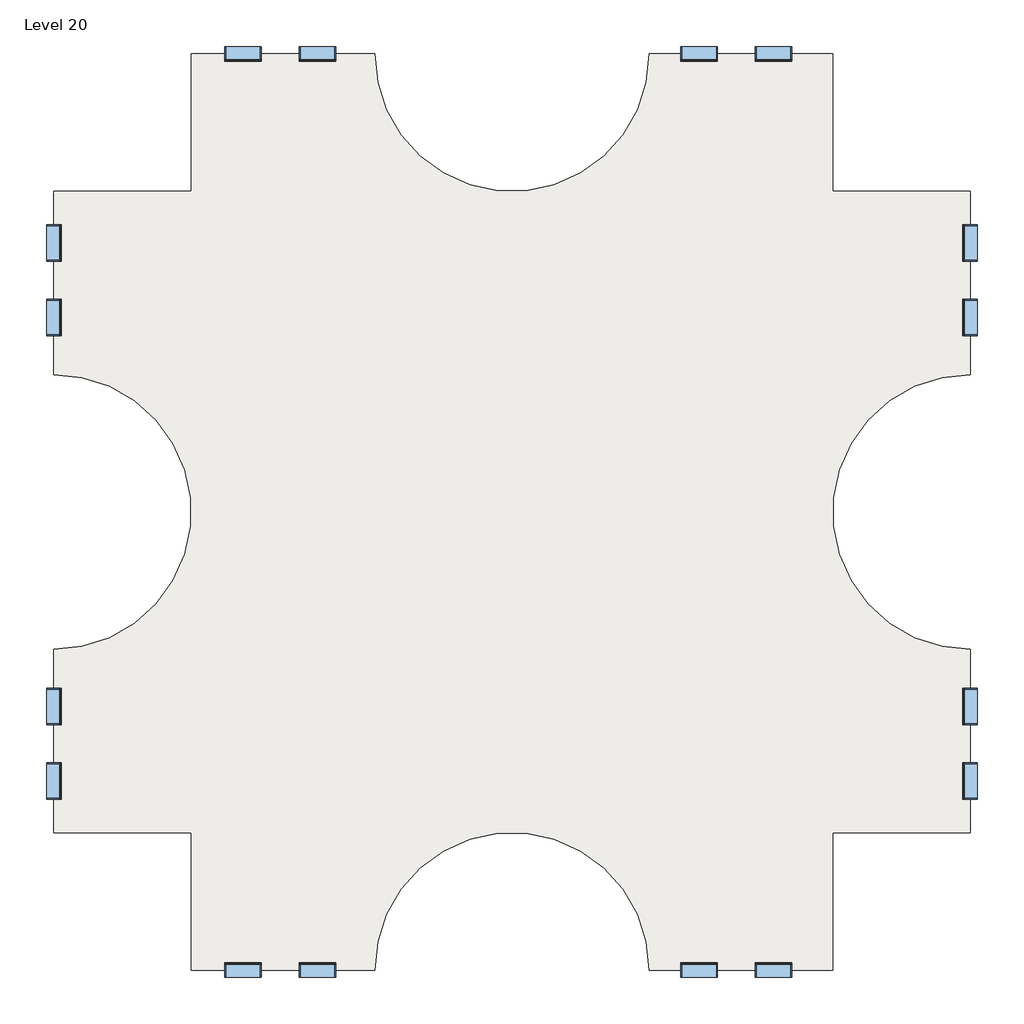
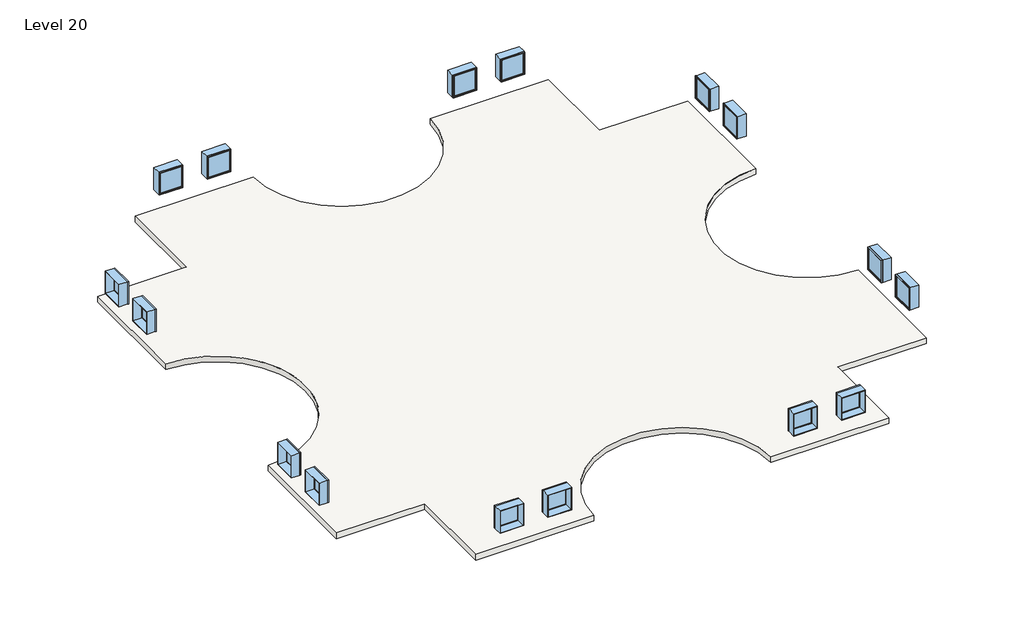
# One storey: 16 windows, 2 slabs.
"""IFC4 building model written with IfcOpenShell, lengths in millimetres."""

import ifcopenshell
import ifcopenshell.guid

model = None  # the IFC model being written
_history = None  # IfcOwnerHistory: only IFC2X3 demands one
_inside = {}  # id of a spatial element -> (the spatial element, [elements in it])
_under = {}  # id of a project, library or spatial element -> (it, [spatial elements below it])
_declared = {}  # id of a project -> (the project, [libraries it declares])
_typed = {}  # id of a type object -> (the type object, [elements of that type])
_made_of = {}  # id of a material, layer set ... -> (it, [elements and type objects made of it])


def new_model(schema):
    """Start an empty IFC model of exactly this schema.

    Asked for "IFC4X3", IfcOpenShell would pick the latest addendum, in which some entities
    have other attributes; the version numbers below select the first issue.
    IFC2X3 requires an IfcOwnerHistory on every rooted entity: one is made here for all.
    """
    global model, _history
    if schema == "IFC4X3":
        model = ifcopenshell.file(schema_version=(4, 3, 0, 0))
    else:
        model = ifcopenshell.file(schema=schema)
    _inside.clear()
    _under.clear()
    _declared.clear()
    _typed.clear()
    _made_of.clear()
    _history = None
    if model.schema == "IFC2X3":
        org = make("IfcOrganization", Name="unknown")
        user = make(
            "IfcPersonAndOrganization",
            ThePerson=make("IfcPerson", FamilyName="unknown"),
            TheOrganization=org,
        )
        app = make(
            "IfcApplication",
            ApplicationDeveloper=org,
            Version="unknown",
            ApplicationFullName="unknown",
            ApplicationIdentifier="unknown",
        )
        _history = make(
            "IfcOwnerHistory",
            OwningUser=user,
            OwningApplication=app,
            ChangeAction="ADDED",
            CreationDate=0,
        )
    return model


def make(cls, **values):
    """One entity of the class cls with the attributes given. An attribute that is None is left unset."""
    return model.create_entity(
        cls, **{name: value for name, value in values.items() if value is not None}
    )


def rooted(cls, **values):
    """An entity with a GlobalId (a new one), such as an element, a storey or a relation."""
    return make(cls, GlobalId=ifcopenshell.guid.new(), OwnerHistory=_history, **values)


def si_unit(unit_type, name, prefix=None):
    """IfcSIUnit, for example si_unit("LENGTHUNIT", "METRE", prefix="MILLI")."""
    return make("IfcSIUnit", UnitType=unit_type, Prefix=prefix, Name=name)


def assignment(units):
    """IfcUnitAssignment: the units of a project."""
    return None if units is None else make("IfcUnitAssignment", Units=units)


def point(xyz):
    """IfcCartesianPoint."""
    return None if xyz is None else make("IfcCartesianPoint", Coordinates=xyz)


def direction(xyz):
    """IfcDirection."""
    return None if xyz is None else make("IfcDirection", DirectionRatios=xyz)


def frame(location, z_axis=None, x_axis=None):
    """IfcAxis2Placement3D, a coordinate frame: its origin and axes. An axis left out is left unset."""
    return make(
        "IfcAxis2Placement3D",
        Location=point(location),
        Axis=direction(z_axis),
        RefDirection=direction(x_axis),
    )


def frame_2d(location, x_axis=None):
    """IfcAxis2Placement2D, a coordinate frame in the plane: its origin and x axis."""
    return make(
        "IfcAxis2Placement2D", Location=point(location), RefDirection=direction(x_axis)
    )


def origin():
    """The frame at (0, 0, 0) with its axes left unset."""
    return frame((0.0, 0.0, 0.0))


def place(relative_to, where):
    """IfcLocalPlacement: puts the frame where relative to a parent placement (None: the world)."""
    return make(
        "IfcLocalPlacement", PlacementRelTo=relative_to, RelativePlacement=where
    )


def context(
    kind, dimensions, precision=None, world=None, true_north=None, identifier=None
):
    """IfcGeometricRepresentationContext, for example the 3D "Model" context."""
    return make(
        "IfcGeometricRepresentationContext",
        ContextIdentifier=identifier,
        ContextType=kind,
        CoordinateSpaceDimension=dimensions,
        Precision=precision,
        WorldCoordinateSystem=world,
        TrueNorth=true_north,
    )


def project(units=None, contexts=None):
    """IfcProject with its units and contexts."""
    return rooted(
        "IfcProject",
        Name="project",
        RepresentationContexts=contexts,
        UnitsInContext=assignment(units),
    )


def spatial(cls, under=None, at=None, **own):
    """A site, building, storey or space (cls), placed at a placement, below another one or the project."""
    s = rooted(cls, ObjectPlacement=at, **own)
    if under is not None:
        _under.setdefault(under.id(), (under, []))[1].append(s)
    return s


def polyline(points):
    """IfcPolyline through the points."""
    return make("IfcPolyline", Points=[point(p) for p in points])


def circle_curve(where, radius):
    """IfcCircle in the frame where."""
    return make("IfcCircle", Position=where, Radius=radius)


def trimmed(basis, trim1, trim2, sense, master):
    """IfcTrimmedCurve: the piece of a basis curve between two trims."""
    return make(
        "IfcTrimmedCurve",
        BasisCurve=basis,
        Trim1=trim1,
        Trim2=trim2,
        SenseAgreement=sense,
        MasterRepresentation=master,
    )


def segment(curve, same_sense, transition):
    """IfcCompositeCurveSegment."""
    return make(
        "IfcCompositeCurveSegment",
        Transition=transition,
        SameSense=same_sense,
        ParentCurve=curve,
    )


def composite_curve(segments, self_intersect=None):
    """IfcCompositeCurve: segments joined end to end."""
    return make("IfcCompositeCurve", Segments=segments, SelfIntersect=self_intersect)


def outline(outer, holes=None, kind="AREA"):
    """IfcArbitraryClosedProfileDef: a profile drawn as a closed curve; with holes, ...WithVoids."""
    if holes is None:
        return make("IfcArbitraryClosedProfileDef", ProfileType=kind, OuterCurve=outer)
    return make(
        "IfcArbitraryProfileDefWithVoids",
        ProfileType=kind,
        OuterCurve=outer,
        InnerCurves=holes,
    )


def extrude(swept, where, along, depth):
    """IfcExtrudedAreaSolid: the profile swept, set in the frame where, extruded along a direction by depth."""
    return make(
        "IfcExtrudedAreaSolid",
        SweptArea=swept,
        Position=where,
        ExtrudedDirection=direction(along),
        Depth=depth,
    )


def shape(context_of_items, identifier, shape_type, items):
    """IfcShapeRepresentation: the items that make up one representation, for example the "Body"."""
    return make(
        "IfcShapeRepresentation",
        ContextOfItems=context_of_items,
        RepresentationIdentifier=identifier,
        RepresentationType=shape_type,
        Items=items,
    )


def source(mapping_origin, context_of_items, identifier, shape_type, items):
    """IfcRepresentationMap: a shape defined once, which mapped items show again and again."""
    return make(
        "IfcRepresentationMap",
        MappingOrigin=mapping_origin,
        MappedRepresentation=shape(context_of_items, identifier, shape_type, items),
    )


def transform(
    local_origin,
    x_axis=None,
    y_axis=None,
    z_axis=None,
    scale=None,
    scale2=None,
    scale3=None,
    uniform=True,
):
    """IfcCartesianTransformationOperator3D, or its non-uniform kind. x_axis, y_axis, z_axis: its Axis1, 2, 3."""
    if uniform:
        return make(
            "IfcCartesianTransformationOperator3D",
            Axis1=direction(x_axis),
            Axis2=direction(y_axis),
            LocalOrigin=point(local_origin),
            Scale=scale,
            Axis3=direction(z_axis),
        )
    return make(
        "IfcCartesianTransformationOperator3DnonUniform",
        Axis1=direction(x_axis),
        Axis2=direction(y_axis),
        LocalOrigin=point(local_origin),
        Scale=scale,
        Axis3=direction(z_axis),
        Scale2=scale2,
        Scale3=scale3,
    )


def mapped(mapping_source, mapping_target):
    """IfcMappedItem: shows the shape of a source again, moved by a transform."""
    return make(
        "IfcMappedItem", MappingSource=mapping_source, MappingTarget=mapping_target
    )


def made_of(thing, what):
    """Note that an element or type object is made of a material, layer set ...; save() writes the relation."""
    if what is not None:
        _made_of.setdefault(what.id(), (what, []))[1].append(thing)
    return thing


def element(
    cls,
    number,
    at=None,
    inside=None,
    cuts=None,
    type_object=None,
    material=None,
    context=None,
    identifier="Body",
    shape_type=None,
    held_by="IfcProductDefinitionShape",
    body=None,
    shapes=None,
    **own,
):
    """One element of the class cls, such as IfcWall. Its Tag is "e" and its number.

    at: its placement. inside: the storey or other place that contains it. cuts: it is an
    opening in that element (IfcRelVoidsElement). A single representation is given by context,
    identifier, shape_type and body (its items); several are given by shapes. held_by: the class
    of the entity that holds the representations. save() writes the other relations.
    """
    e = rooted(cls, Tag="e%d" % number, ObjectPlacement=at, **own)
    if body is not None:
        shapes = [shape(context, identifier, shape_type, body)]
    if shapes is not None:
        e.Representation = make(held_by, Representations=shapes)
    if inside is not None:
        _inside.setdefault(inside.id(), (inside, []))[1].append(e)
    if cuts is not None:
        rooted(
            "IfcRelVoidsElement", RelatingBuildingElement=cuts, RelatedOpeningElement=e
        )
    if type_object is not None:
        _typed.setdefault(type_object.id(), (type_object, []))[1].append(e)
    return made_of(e, material)


def aggregate(whole, parts):
    """IfcRelAggregates: a whole, such as a stair, and the parts it consists of."""
    return rooted("IfcRelAggregates", RelatingObject=whole, RelatedObjects=parts)


def save(model, path):
    """Write the relations noted so far, then the file.

    IfcRelAggregates (storeys below a building ...), IfcRelContainedInSpatialStructure (elements
    in a storey), IfcRelDefinesByType, IfcRelAssociatesMaterial and IfcRelDeclares: one each for
    every whole, place, type object, material and project.
    """
    for whole, parts in _under.values():
        aggregate(whole, parts)
    for where, things in _inside.values():
        rooted(
            "IfcRelContainedInSpatialStructure",
            RelatedElements=things,
            RelatingStructure=where,
        )
    for kind, things in _typed.values():
        rooted("IfcRelDefinesByType", RelatedObjects=things, RelatingType=kind)
    for what, things in _made_of.values():
        rooted("IfcRelAssociatesMaterial", RelatedObjects=things, RelatingMaterial=what)
    for by, libraries in _declared.values():
        rooted("IfcRelDeclares", RelatingContext=by, RelatedDefinitions=libraries)
    model.write(path)


def window_d0035ecf(model_context):
    return source(origin(), model_context, "Body", "SweptSolid", [
        extrude(outline(polyline([(508.0, 200.025), (-584.2, 200.025), (-584.2, 212.725), (508.0, 212.725), (508.0, 200.025)])), frame((0.0, 0.0, 977.9), z_axis=(0.0, 0.0, 1.0), x_axis=(1.0, 0.0, 0.0)), (0.0, 0.0, 1.0), 1092.2),
        extrude(outline(polyline([(2114.55, -628.65), (933.45, -628.65), (933.45, 552.45), (2114.55, 552.45), (2114.55, -628.65)]), holes=[polyline([(2070.1, -584.2), (2070.1, 508.0), (977.9, 508.0), (977.9, -584.2), (2070.1, -584.2)])]), frame((0.0, 184.15, 0.0), z_axis=(0.0, 1.0, 0.0), x_axis=(0.0, 0.0, 1.0)), (0.0, 0.0, 1.0), 44.45),
        extrude(outline(polyline([(2133.6, -647.7), (914.4, -647.7), (914.4, 571.5), (2133.6, 571.5), (2133.6, -647.7)]), holes=[polyline([(2101.85, -615.95), (2101.85, 539.75), (946.15, 539.75), (946.15, -615.95), (2101.85, -615.95)])]), frame((0.0, -247.65, 0.0), z_axis=(0.0, 1.0, 0.0), x_axis=(0.0, 0.0, 1.0)), (0.0, 0.0, 1.0), 431.8),
        extrude(outline(polyline([(2133.6, 571.5), (2133.6, -647.7), (914.4, -647.7), (914.4, 571.5), (2133.6, 571.5)]), holes=[polyline([(2114.55, 552.45), (933.45, 552.45), (933.45, -628.65), (2114.55, -628.65), (2114.55, 552.45)])]), frame((0.0, 184.15, 0.0), z_axis=(0.0, 1.0, 0.0), x_axis=(0.0, 0.0, 1.0)), (0.0, 0.0, 1.0), 63.5),
    ])


def window_d434eb62(model_context):
    return source(origin(), model_context, "Body", "SweptSolid", [
        extrude(outline(polyline([(508.0, -200.025), (508.0, -212.725), (-584.2, -212.725), (-584.2, -200.025), (508.0, -200.025)])), frame((0.0, 0.0, 977.9), z_axis=(0.0, 0.0, 1.0), x_axis=(1.0, 0.0, 0.0)), (0.0, 0.0, 1.0), 1092.2),
        extrude(outline(polyline([(2114.55, -628.65), (933.45, -628.65), (933.45, 552.45), (2114.55, 552.45), (2114.55, -628.65)]), holes=[polyline([(2070.1, -584.2), (2070.1, 508.0), (977.9, 508.0), (977.9, -584.2), (2070.1, -584.2)])]), frame((0.0, -228.6, 0.0), z_axis=(0.0, 1.0, 0.0), x_axis=(0.0, 0.0, 1.0)), (0.0, 0.0, 1.0), 44.45),
        extrude(outline(polyline([(2133.6, -647.7), (914.4, -647.7), (914.4, 571.5), (2133.6, 571.5), (2133.6, -647.7)]), holes=[polyline([(2101.85, -615.95), (2101.85, 539.75), (946.15, 539.75), (946.15, -615.95), (2101.85, -615.95)])]), frame((0.0, -184.15, 0.0), z_axis=(0.0, 1.0, 0.0), x_axis=(0.0, 0.0, 1.0)), (0.0, 0.0, 1.0), 431.8),
        extrude(outline(polyline([(2133.6, 571.5), (2133.6, -647.7), (914.4, -647.7), (914.4, 571.5), (2133.6, 571.5)]), holes=[polyline([(2114.55, 552.45), (933.45, 552.45), (933.45, -628.65), (2114.55, -628.65), (2114.55, 552.45)])]), frame((0.0, -247.65, 0.0), z_axis=(0.0, 1.0, 0.0), x_axis=(0.0, 0.0, 1.0)), (0.0, 0.0, 1.0), 63.5),
    ])


model = new_model("IFC4")

# Units and contexts
model_context = context("Model", 3, world=origin())
ifc_project = project(units=[si_unit("LENGTHUNIT", "METRE", prefix="MILLI")], contexts=[model_context])

# Site, building, storey
site = spatial("IfcSite", under=ifc_project)
building = spatial("IfcBuilding", under=site)
storey = spatial("IfcBuildingStorey", under=building, Name="Level 20", Elevation=57912.0)

# Slabs
placement = place(None, origin())
element("IfcSlab", 1, ObjectType="Generic - 12\"", at=placement, inside=storey, context=model_context, shape_type="SweptSolid", body=[
    extrude(outline(composite_curve([segment(polyline([(-7150.3629456, 4479.6634547), (-7150.3629456, 9051.6634547), (-1054.3629456, 9051.6634547)]), True, "CONTINUOUS"), segment(trimmed(circle_curve(frame_2d((3517.6370544, 9051.6634547)), 4572.0), [point((-1054.3629456, 9051.6634547))], [point((8089.6370544, 9051.6634547))], True, "CARTESIAN"), True, "CONTINUOUS"), segment(polyline([(8089.6370544, 9051.6634547), (14185.6370544, 9051.6634547), (14185.6370544, 4479.6634547), (18757.6370544, 4479.6634547), (18757.6370544, -1616.3365453)]), True, "CONTINUOUS"), segment(trimmed(circle_curve(frame_2d((18757.6370544, -6188.3365453)), 4572.0), [point((18757.6370544, -1616.3365453))], [point((18757.6370544, -10760.3365453))], True, "CARTESIAN"), True, "CONTINUOUS"), segment(polyline([(18757.6370544, -10760.3365453), (18757.6370544, -16856.3365453), (14185.6370544, -16856.3365453), (14185.6370544, -21428.3365453), (8089.6370544, -21428.3365453)]), True, "CONTINUOUS"), segment(trimmed(circle_curve(frame_2d((3517.6370544, -21428.3365453)), 4572.0), [point((8089.6370544, -21428.3365453))], [point((-1054.3629456, -21428.3365453))], True, "CARTESIAN"), True, "CONTINUOUS"), segment(polyline([(-1054.3629456, -21428.3365453), (-7150.3629456, -21428.3365453), (-7150.3629456, -16856.3365453), (-11722.3629456, -16856.3365453), (-11722.3629456, -10760.3365453)]), True, "CONTINUOUS"), segment(trimmed(circle_curve(frame_2d((-11722.3629456, -6188.3365453)), 4572.0), [point((-11722.3629456, -10760.3365453))], [point((-11722.3629456, -1616.3365453))], True, "CARTESIAN"), True, "CONTINUOUS"), segment(polyline([(-11722.3629456, -1616.3365453), (-11722.3629456, 4479.6634547), (-7150.3629456, 4479.6634547)]), True, "CONTINUOUS")], self_intersect=False)), frame((0.0, 0.0, 57607.2), z_axis=(0.0, 0.0, 1.0), x_axis=(1.0, 0.0, 0.0)), (0.0, 0.0, 1.0), 304.8),
])
element("IfcSlab", 2, ObjectType="Generic - 12\"", at=placement, inside=storey, context=model_context, shape_type="SweptSolid", body=[
    extrude(outline(composite_curve([segment(polyline([(-7150.3629456, 4479.6634547), (-7150.3629456, 9051.6634547), (-1054.3629456, 9051.6634547)]), True, "CONTINUOUS"), segment(trimmed(circle_curve(frame_2d((3517.6370544, 9051.6634547)), 4572.0), [point((-1054.3629456, 9051.6634547))], [point((8089.6370544, 9051.6634547))], True, "CARTESIAN"), True, "CONTINUOUS"), segment(polyline([(8089.6370544, 9051.6634547), (14185.6370544, 9051.6634547), (14185.6370544, 4479.6634547), (18757.6370544, 4479.6634547), (18757.6370544, -1616.3365453)]), True, "CONTINUOUS"), segment(trimmed(circle_curve(frame_2d((18757.6370544, -6188.3365453)), 4572.0), [point((18757.6370544, -1616.3365453))], [point((18757.6370544, -10760.3365453))], True, "CARTESIAN"), True, "CONTINUOUS"), segment(polyline([(18757.6370544, -10760.3365453), (18757.6370544, -16856.3365453), (14185.6370544, -16856.3365453), (14185.6370544, -21428.3365453), (8089.6370544, -21428.3365453)]), True, "CONTINUOUS"), segment(trimmed(circle_curve(frame_2d((3517.6370544, -21428.3365453)), 4572.0), [point((8089.6370544, -21428.3365453))], [point((-1054.3629456, -21428.3365453))], True, "CARTESIAN"), True, "CONTINUOUS"), segment(polyline([(-1054.3629456, -21428.3365453), (-7150.3629456, -21428.3365453), (-7150.3629456, -16856.3365453), (-11722.3629456, -16856.3365453), (-11722.3629456, -10760.3365453)]), True, "CONTINUOUS"), segment(trimmed(circle_curve(frame_2d((-11722.3629456, -6188.3365453)), 4572.0), [point((-11722.3629456, -10760.3365453))], [point((-11722.3629456, -1616.3365453))], True, "CARTESIAN"), True, "CONTINUOUS"), segment(polyline([(-11722.3629456, -1616.3365453), (-11722.3629456, 4479.6634547), (-7150.3629456, 4479.6634547)]), True, "CONTINUOUS")], self_intersect=False)), frame((0.0, 0.0, 57607.2), z_axis=(0.0, 0.0, 1.0), x_axis=(1.0, 0.0, 0.0)), (0.0, 0.0, 1.0), 304.8),
])

# Windows
window_shape = window_d0035ecf(model_context)
element("IfcWindow", 3, ObjectType="Fixed : 48\" x 48\"", at=placement, inside=storey, context=model_context, shape_type="MappedRepresentation", body=[
    mapped(window_shape, transform((-11719.1879456, 247.3884547, 57912.0), x_axis=(0.0, -1.0, 0.0), y_axis=(1.0, 0.0, 0.0), z_axis=(0.0, 0.0, 1.0))),
])
element("IfcWindow", 4, ObjectType="Fixed : 48\" x 48\"", at=placement, inside=storey, context=model_context, shape_type="MappedRepresentation", body=[
    mapped(window_shape, transform((-5469.1993281, 9048.4884547, 57912.0), x_axis=(-1.0, 0.0, 0.0), y_axis=(0.0, -1.0, 0.0), z_axis=(0.0, 0.0, 1.0))),
])
element("IfcWindow", 5, ObjectType="Fixed : 48\" x 48\"", at=placement, inside=storey, context=model_context, shape_type="MappedRepresentation", body=[
    mapped(window_shape, transform((-11719.1879456, -15175.1729277, 57912.0), x_axis=(0.0, -1.0, 0.0), y_axis=(1.0, 0.0, 0.0), z_axis=(0.0, 0.0, 1.0))),
])
element("IfcWindow", 6, ObjectType="Fixed : 48\" x 48\"", at=placement, inside=storey, context=model_context, shape_type="MappedRepresentation", body=[
    mapped(window_shape, transform((-2918.0879456, -21425.1615453, 57912.0), x_axis=(1.0, 0.0, 0.0), y_axis=(0.0, 1.0, 0.0), z_axis=(0.0, 0.0, 1.0))),
])
element("IfcWindow", 7, ObjectType="Fixed : 48\" x 48\"", at=placement, inside=storey, context=model_context, shape_type="MappedRepresentation", body=[
    mapped(window_shape, transform((18754.4620544, 2798.4998372, 57912.0), x_axis=(0.0, 1.0, 0.0), y_axis=(-1.0, 0.0, 0.0), z_axis=(0.0, 0.0, 1.0))),
])
element("IfcWindow", 8, ObjectType="Fixed : 48\" x 48\"", at=placement, inside=storey, context=model_context, shape_type="MappedRepresentation", body=[
    mapped(window_shape, transform((9705.7120544, 9048.4884547, 57912.0), x_axis=(-1.0, 0.0, 0.0), y_axis=(0.0, -1.0, 0.0), z_axis=(0.0, 0.0, 1.0))),
])
element("IfcWindow", 9, ObjectType="Fixed : 48\" x 48\"", at=placement, inside=storey, context=model_context, shape_type="MappedRepresentation", body=[
    mapped(window_shape, transform((18754.4620544, -12624.0615453, 57912.0), x_axis=(0.0, 1.0, 0.0), y_axis=(-1.0, 0.0, 0.0), z_axis=(0.0, 0.0, 1.0))),
])
element("IfcWindow", 10, ObjectType="Fixed : 48\" x 48\"", at=placement, inside=storey, context=model_context, shape_type="MappedRepresentation", body=[
    mapped(window_shape, transform((12256.8234368, -21425.1615453, 57912.0), x_axis=(1.0, 0.0, 0.0), y_axis=(0.0, 1.0, 0.0), z_axis=(0.0, 0.0, 1.0))),
])
window_2_shape = window_d434eb62(model_context)
element("IfcWindow", 11, ObjectType="Fixed : 48\" x 48\"", at=placement, inside=storey, context=model_context, shape_type="MappedRepresentation", body=[
    mapped(window_2_shape, transform((-11719.1879456, 2798.4998372, 57912.0), x_axis=(0.0, 1.0, 0.0), y_axis=(-1.0, 0.0, 0.0), z_axis=(0.0, 0.0, 1.0))),
])
element("IfcWindow", 12, ObjectType="Fixed : 48\" x 48\"", at=placement, inside=storey, context=model_context, shape_type="MappedRepresentation", body=[
    mapped(window_2_shape, transform((-2918.0879456, 9048.4884547, 57912.0), x_axis=(1.0, 0.0, 0.0), y_axis=(0.0, 1.0, 0.0), z_axis=(0.0, 0.0, 1.0))),
])
element("IfcWindow", 13, ObjectType="Fixed : 48\" x 48\"", at=placement, inside=storey, context=model_context, shape_type="MappedRepresentation", body=[
    mapped(window_2_shape, transform((-11719.1879456, -12624.0615453, 57912.0), x_axis=(0.0, 1.0, 0.0), y_axis=(-1.0, 0.0, 0.0), z_axis=(0.0, 0.0, 1.0))),
])
element("IfcWindow", 14, ObjectType="Fixed : 48\" x 48\"", at=placement, inside=storey, context=model_context, shape_type="MappedRepresentation", body=[
    mapped(window_2_shape, transform((-5469.1993281, -21425.1615453, 57912.0), x_axis=(-1.0, 0.0, 0.0), y_axis=(0.0, -1.0, 0.0), z_axis=(0.0, 0.0, 1.0))),
])
element("IfcWindow", 15, ObjectType="Fixed : 48\" x 48\"", at=placement, inside=storey, context=model_context, shape_type="MappedRepresentation", body=[
    mapped(window_2_shape, transform((18754.4620544, 247.3884547, 57912.0), x_axis=(0.0, -1.0, 0.0), y_axis=(1.0, 0.0, 0.0), z_axis=(0.0, 0.0, 1.0))),
])
element("IfcWindow", 16, ObjectType="Fixed : 48\" x 48\"", at=placement, inside=storey, context=model_context, shape_type="MappedRepresentation", body=[
    mapped(window_2_shape, transform((12256.8234368, 9048.4884547, 57912.0), x_axis=(1.0, 0.0, 0.0), y_axis=(0.0, 1.0, 0.0), z_axis=(0.0, 0.0, 1.0))),
])
element("IfcWindow", 17, ObjectType="Fixed : 48\" x 48\"", at=placement, inside=storey, context=model_context, shape_type="MappedRepresentation", body=[
    mapped(window_2_shape, transform((18754.4620544, -15175.1729277, 57912.0), x_axis=(0.0, -1.0, 0.0), y_axis=(1.0, 0.0, 0.0), z_axis=(0.0, 0.0, 1.0))),
])
element("IfcWindow", 18, ObjectType="Fixed : 48\" x 48\"", at=placement, inside=storey, context=model_context, shape_type="MappedRepresentation", body=[
    mapped(window_2_shape, transform((9705.7120544, -21425.1615453, 57912.0), x_axis=(-1.0, 0.0, 0.0), y_axis=(0.0, -1.0, 0.0), z_axis=(0.0, 0.0, 1.0))),
])

save(model, "model.ifc")
